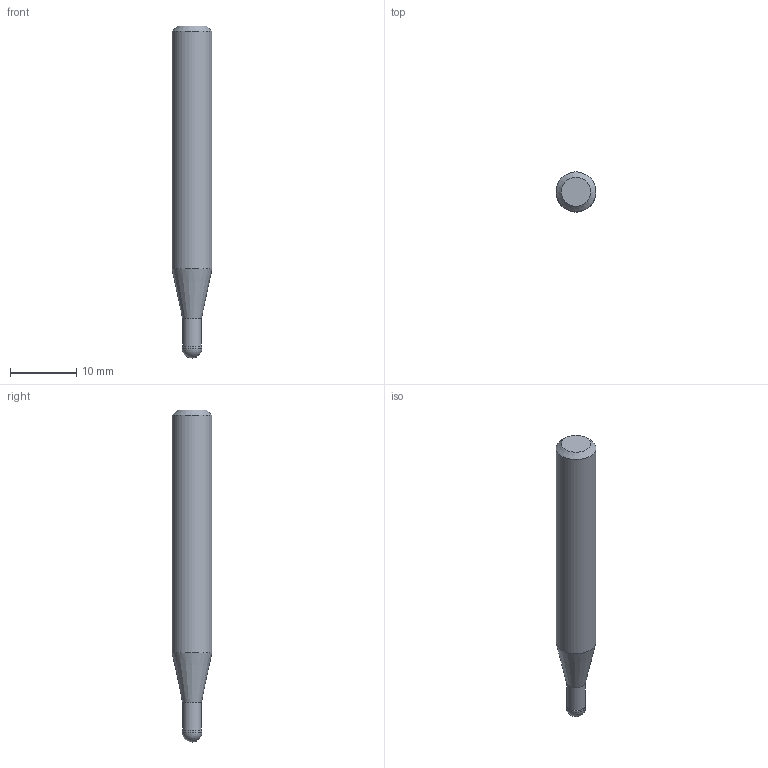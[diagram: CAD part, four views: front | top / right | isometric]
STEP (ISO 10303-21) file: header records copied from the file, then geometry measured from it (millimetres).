
FILE_DESCRIPTION((''),'2;1');
FILE_NAME('C:\Users\nsx150\AppData\Local\Temp\Mastercam 2021\LJSIDMOTM8\TEMP.step','2021-08-03T14:23:14',(''),(''),'STEP Write','Mastercam 2021 ... CNC Software, Inc.','');
FILE_SCHEMA(('AUTOMOTIVE_DESIGN'));
Length unit declared in the file: millimetre
Products named in the file (1): None
Bounding box: 6 x 6 x 50 mm (x, y, z)
Volume: 1183.8 mm3; surface area: 881.6 mm2
Topology: 2 solids, 2 shells, 9 faces, 14 edges, 8 vertices
Faces by surface type: plane 3, cylinder 3, cone 2, sphere 1
Full cylindrical faces by diameter (mm): 2.85 x1, 3 x1, 6 x1
Entity records: 211 total; most frequent: DIRECTION 36, CARTESIAN_POINT 25, AXIS2_PLACEMENT_3D 18, ORIENTED_EDGE 14, EDGE_LOOP 14, STYLED_ITEM 12, ADVANCED_FACE 9, FACE_BOUND 8
